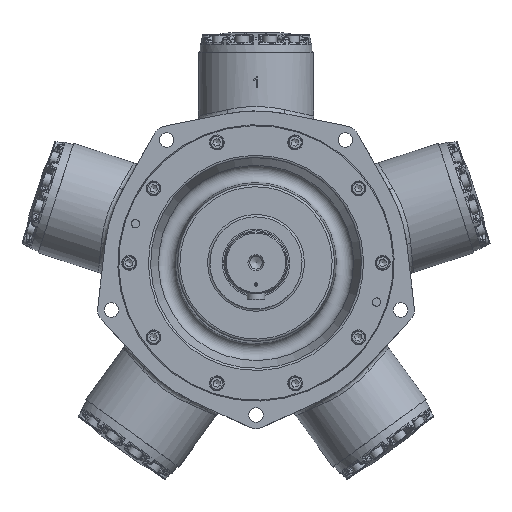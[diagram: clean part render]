
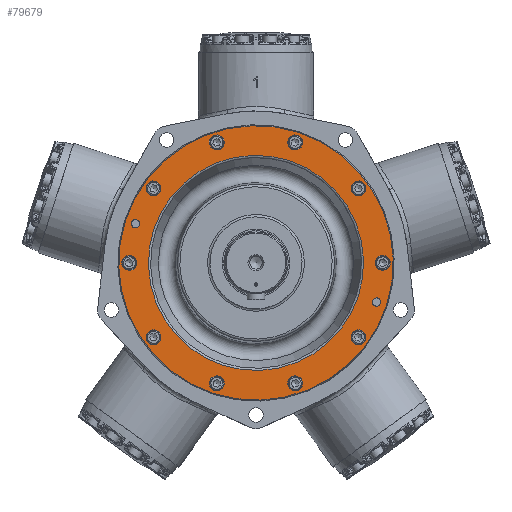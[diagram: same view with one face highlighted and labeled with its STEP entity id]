
A CAD part, top view. The second image highlights one B-rep face of the part: STEP entity #79679.
In plain terms, the highlighted planar face has unit normal (0, 0, 1).
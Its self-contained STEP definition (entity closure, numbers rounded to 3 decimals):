
#6750=FACE_BOUND('',#24464,.T.);
#6751=FACE_BOUND('',#24465,.T.);
#6752=FACE_BOUND('',#24466,.T.);
#6753=FACE_BOUND('',#24467,.T.);
#6754=FACE_BOUND('',#24468,.T.);
#6755=FACE_BOUND('',#24469,.T.);
#6756=FACE_BOUND('',#24470,.T.);
#6757=FACE_BOUND('',#24471,.T.);
#6758=FACE_BOUND('',#24472,.T.);
#6759=FACE_BOUND('',#24473,.T.);
#6760=FACE_BOUND('',#24474,.T.);
#6761=FACE_BOUND('',#24475,.T.);
#6762=FACE_BOUND('',#24476,.T.);
#15674=PLANE('',#85740);
#19510=FACE_OUTER_BOUND('',#24463,.T.);
#24463=EDGE_LOOP('',(#64191));
#24464=EDGE_LOOP('',(#64192));
#24465=EDGE_LOOP('',(#64193));
#24466=EDGE_LOOP('',(#64194));
#24467=EDGE_LOOP('',(#64195));
#24468=EDGE_LOOP('',(#64196));
#24469=EDGE_LOOP('',(#64197));
#24470=EDGE_LOOP('',(#64198));
#24471=EDGE_LOOP('',(#64199));
#24472=EDGE_LOOP('',(#64200));
#24473=EDGE_LOOP('',(#64201));
#24474=EDGE_LOOP('',(#64202));
#24475=EDGE_LOOP('',(#64203));
#24476=EDGE_LOOP('',(#64204));
#28336=CIRCLE('',#85704,5.664);
#28338=CIRCLE('',#85707,5.664);
#28341=CIRCLE('',#85711,10.319);
#28342=CIRCLE('',#85713,10.319);
#28344=CIRCLE('',#85716,10.319);
#28345=CIRCLE('',#85718,10.319);
#28347=CIRCLE('',#85721,10.319);
#28348=CIRCLE('',#85723,10.319);
#28350=CIRCLE('',#85726,10.319);
#28351=CIRCLE('',#85728,10.319);
#28353=CIRCLE('',#85731,10.319);
#28354=CIRCLE('',#85733,10.319);
#28355=CIRCLE('',#85735,189.179);
#28359=CIRCLE('',#85741,148.273);
#34558=VERTEX_POINT('',#181490);
#34560=VERTEX_POINT('',#181496);
#34563=VERTEX_POINT('',#181504);
#34564=VERTEX_POINT('',#181508);
#34566=VERTEX_POINT('',#181514);
#34567=VERTEX_POINT('',#181518);
#34569=VERTEX_POINT('',#181524);
#34570=VERTEX_POINT('',#181528);
#34572=VERTEX_POINT('',#181534);
#34573=VERTEX_POINT('',#181538);
#34575=VERTEX_POINT('',#181544);
#34576=VERTEX_POINT('',#181548);
#34577=VERTEX_POINT('',#181552);
#34581=VERTEX_POINT('',#181564);
#44740=EDGE_CURVE('',#34558,#34558,#28336,.T.);
#44743=EDGE_CURVE('',#34560,#34560,#28338,.T.);
#44748=EDGE_CURVE('',#34563,#34563,#28341,.T.);
#44750=EDGE_CURVE('',#34564,#34564,#28342,.T.);
#44753=EDGE_CURVE('',#34566,#34566,#28344,.T.);
#44755=EDGE_CURVE('',#34567,#34567,#28345,.T.);
#44758=EDGE_CURVE('',#34569,#34569,#28347,.T.);
#44760=EDGE_CURVE('',#34570,#34570,#28348,.T.);
#44763=EDGE_CURVE('',#34572,#34572,#28350,.T.);
#44765=EDGE_CURVE('',#34573,#34573,#28351,.T.);
#44768=EDGE_CURVE('',#34575,#34575,#28353,.T.);
#44770=EDGE_CURVE('',#34576,#34576,#28354,.T.);
#44771=EDGE_CURVE('',#34577,#34577,#28355,.T.);
#44777=EDGE_CURVE('',#34581,#34581,#28359,.T.);
#64191=ORIENTED_EDGE('',*,*,#44771,.F.);
#64192=ORIENTED_EDGE('',*,*,#44740,.T.);
#64193=ORIENTED_EDGE('',*,*,#44743,.T.);
#64194=ORIENTED_EDGE('',*,*,#44748,.T.);
#64195=ORIENTED_EDGE('',*,*,#44750,.T.);
#64196=ORIENTED_EDGE('',*,*,#44753,.T.);
#64197=ORIENTED_EDGE('',*,*,#44755,.T.);
#64198=ORIENTED_EDGE('',*,*,#44758,.T.);
#64199=ORIENTED_EDGE('',*,*,#44760,.T.);
#64200=ORIENTED_EDGE('',*,*,#44763,.T.);
#64201=ORIENTED_EDGE('',*,*,#44765,.T.);
#64202=ORIENTED_EDGE('',*,*,#44768,.T.);
#64203=ORIENTED_EDGE('',*,*,#44770,.T.);
#64204=ORIENTED_EDGE('',*,*,#44777,.F.);
#79679=ADVANCED_FACE('',(#19510,#6750,#6751,#6752,#6753,#6754,#6755,#6756,
#6757,#6758,#6759,#6760,#6761,#6762),#15674,.T.);
#85704=AXIS2_PLACEMENT_3D('',#181491,#99139,#99140);
#85707=AXIS2_PLACEMENT_3D('',#181497,#99146,#99147);
#85711=AXIS2_PLACEMENT_3D('',#181506,#99156,#99157);
#85713=AXIS2_PLACEMENT_3D('',#181510,#99161,#99162);
#85716=AXIS2_PLACEMENT_3D('',#181516,#99168,#99169);
#85718=AXIS2_PLACEMENT_3D('',#181520,#99173,#99174);
#85721=AXIS2_PLACEMENT_3D('',#181526,#99180,#99181);
#85723=AXIS2_PLACEMENT_3D('',#181530,#99185,#99186);
#85726=AXIS2_PLACEMENT_3D('',#181536,#99192,#99193);
#85728=AXIS2_PLACEMENT_3D('',#181540,#99197,#99198);
#85731=AXIS2_PLACEMENT_3D('',#181546,#99204,#99205);
#85733=AXIS2_PLACEMENT_3D('',#181550,#99209,#99210);
#85735=AXIS2_PLACEMENT_3D('',#181553,#99213,#99214);
#85740=AXIS2_PLACEMENT_3D('',#181563,#99225,#99226);
#85741=AXIS2_PLACEMENT_3D('',#181565,#99227,#99228);
#99139=DIRECTION('center_axis',(0.,0.,
-1.));
#99140=DIRECTION('ref_axis',(-0.309,-0.951,0.));
#99146=DIRECTION('center_axis',(0.,0.,
-1.));
#99147=DIRECTION('ref_axis',(-0.309,-0.951,0.));
#99156=DIRECTION('center_axis',(0.,0.,
-1.));
#99157=DIRECTION('ref_axis',(0.809,0.588,0.));
#99161=DIRECTION('center_axis',(0.,0.,
-1.));
#99162=DIRECTION('ref_axis',(1.,0.,0.));
#99168=DIRECTION('center_axis',(0.,0.,
-1.));
#99169=DIRECTION('ref_axis',(0.809,-0.588,0.));
#99173=DIRECTION('center_axis',(0.,0.,
-1.));
#99174=DIRECTION('ref_axis',(0.309,-0.951,0.));
#99180=DIRECTION('center_axis',(0.,0.,
-1.));
#99181=DIRECTION('ref_axis',(-0.309,-0.951,0.));
#99185=DIRECTION('center_axis',(0.,0.,
-1.));
#99186=DIRECTION('ref_axis',(-0.809,-0.588,0.));
#99192=DIRECTION('center_axis',(0.,0.,
-1.));
#99193=DIRECTION('ref_axis',(-1.,0.,0.));
#99197=DIRECTION('center_axis',(0.,0.,
-1.));
#99198=DIRECTION('ref_axis',(-0.809,0.588,0.));
#99204=DIRECTION('center_axis',(0.,0.,
-1.));
#99205=DIRECTION('ref_axis',(-0.309,0.951,0.));
#99209=DIRECTION('center_axis',(0.,0.,
-1.));
#99210=DIRECTION('ref_axis',(0.309,0.951,0.));
#99213=DIRECTION('center_axis',(0.,0.,
-1.));
#99214=DIRECTION('ref_axis',(-0.951,0.309,0.));
#99225=DIRECTION('center_axis',(0.,0.,
1.));
#99226=DIRECTION('ref_axis',(-0.309,-0.951,0.));
#99227=DIRECTION('center_axis',(0.,0.,
1.));
#99228=DIRECTION('ref_axis',(-0.951,0.309,0.));
#181490=CARTESIAN_POINT('',(167.829,-48.575,19.664));
#181491=CARTESIAN_POINT('Origin',(166.078,-53.962,19.664));
#181496=CARTESIAN_POINT('',(-164.328,59.349,19.664));
#181497=CARTESIAN_POINT('Origin',(-166.078,53.962,19.664));
#181504=CARTESIAN_POINT('',(-149.623,-108.707,19.664));
#181506=CARTESIAN_POINT('Origin',(-141.275,-102.642,19.664));
#181508=CARTESIAN_POINT('',(-184.944,0.,19.664));
#181510=CARTESIAN_POINT('Origin',(-174.625,0.,19.664));
#181514=CARTESIAN_POINT('',(-149.623,108.707,19.664));
#181516=CARTESIAN_POINT('Origin',(-141.275,102.642,19.664));
#181518=CARTESIAN_POINT('',(-57.151,175.892,19.664));
#181520=CARTESIAN_POINT('Origin',(-53.962,166.078,19.664));
#181524=CARTESIAN_POINT('',(57.151,175.892,19.664));
#181526=CARTESIAN_POINT('Origin',(53.962,166.078,19.664));
#181528=CARTESIAN_POINT('',(149.623,108.707,19.664));
#181530=CARTESIAN_POINT('Origin',(141.275,102.642,19.664));
#181534=CARTESIAN_POINT('',(184.944,0.,19.664));
#181536=CARTESIAN_POINT('Origin',(174.625,0.,19.664));
#181538=CARTESIAN_POINT('',(149.623,-108.707,19.664));
#181540=CARTESIAN_POINT('Origin',(141.275,-102.642,19.664));
#181544=CARTESIAN_POINT('',(57.151,-175.892,19.664));
#181546=CARTESIAN_POINT('Origin',(53.962,-166.078,19.664));
#181548=CARTESIAN_POINT('',(-57.151,-175.892,19.664));
#181550=CARTESIAN_POINT('Origin',(-53.962,-166.078,19.664));
#181552=CARTESIAN_POINT('',(179.92,-58.459,19.664));
#181553=CARTESIAN_POINT('Origin',(0.,0.,
19.664));
#181563=CARTESIAN_POINT('Origin',(161.549,-52.49,19.664));
#181564=CARTESIAN_POINT('',(45.819,141.016,19.664));
#181565=CARTESIAN_POINT('Origin',(0.,0.,
19.664));
